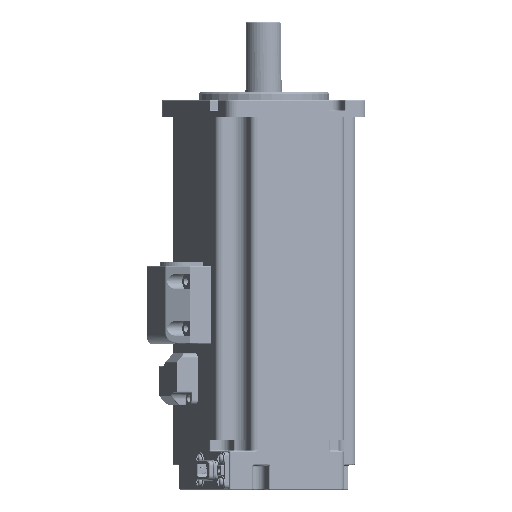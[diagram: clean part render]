
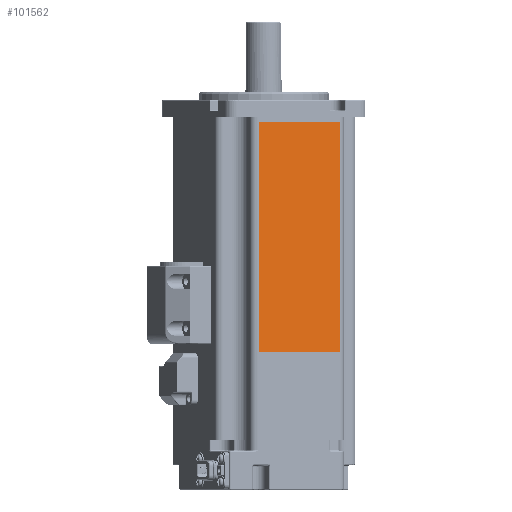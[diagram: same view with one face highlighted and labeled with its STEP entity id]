
A CAD part, left-side view. The second image highlights one B-rep face of the part: STEP entity #101562.
In plain terms, the highlighted planar face has unit normal (-0.89, -0.456, 0) as drawn and (1, 0, 0) by its records, which use the part's own axes.
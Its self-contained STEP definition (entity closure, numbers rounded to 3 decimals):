
#446 = VECTOR ( 'NONE', #66557, 1000. ) ;
#8874 = PLANE ( 'NONE',  #79590 ) ;
#13967 = LINE ( 'NONE', #93670, #446 ) ;
#25705 = CARTESIAN_POINT ( 'NONE',  ( 30., 17.55, 0. ) ) ;
#29896 = EDGE_CURVE ( 'NONE', #77960, #58888, #179159, .T. ) ;
#37857 = VERTEX_POINT ( 'NONE', #108426 ) ;
#48071 = DIRECTION ( 'NONE',  ( 0., 0., 1. ) ) ;
#54053 = CARTESIAN_POINT ( 'NONE',  ( 30., -25.05, 0. ) ) ;
#58888 = VERTEX_POINT ( 'NONE', #25705 ) ;
#66557 = DIRECTION ( 'NONE',  ( 0., 0., -1. ) ) ;
#67774 = EDGE_LOOP ( 'NONE', ( #161841, #146588, #91909, #91692 ) ) ;
#71133 = CARTESIAN_POINT ( 'NONE',  ( 30., -25.05, 88. ) ) ;
#77960 = VERTEX_POINT ( 'NONE', #127293 ) ;
#79590 = AXIS2_PLACEMENT_3D ( 'NONE', #111693, #153965, #182926 ) ;
#81485 = EDGE_CURVE ( 'NONE', #37857, #58888, #13967, .T. ) ;
#84094 = VERTEX_POINT ( 'NONE', #84131 ) ;
#84131 = CARTESIAN_POINT ( 'NONE',  ( 30., -17.55, 88. ) ) ;
#87235 = VECTOR ( 'NONE', #48071, 1000. ) ;
#90794 = VECTOR ( 'NONE', #172043, 1000. ) ;
#91692 = ORIENTED_EDGE ( 'NONE', *, *, #81485, .F. ) ;
#91909 = ORIENTED_EDGE ( 'NONE', *, *, #29896, .T. ) ;
#93670 = CARTESIAN_POINT ( 'NONE',  ( 30., 17.55, 88. ) ) ;
#101562 = ADVANCED_FACE ( 'NONE', ( #130446 ), #8874, .F. ) ;
#102033 = LINE ( 'NONE', #71133, #90794 ) ;
#108426 = CARTESIAN_POINT ( 'NONE',  ( 30., 17.55, 88. ) ) ;
#111693 = CARTESIAN_POINT ( 'NONE',  ( 30., 17.55, 88. ) ) ;
#111979 = LINE ( 'NONE', #134411, #87235 ) ;
#113609 = EDGE_CURVE ( 'NONE', #84094, #37857, #102033, .T. ) ;
#118039 = EDGE_CURVE ( 'NONE', #77960, #84094, #111979, .T. ) ;
#127293 = CARTESIAN_POINT ( 'NONE',  ( 30., -17.55, 0. ) ) ;
#130446 = FACE_OUTER_BOUND ( 'NONE', #67774, .T. ) ;
#134411 = CARTESIAN_POINT ( 'NONE',  ( 30., -17.55, 88. ) ) ;
#145432 = DIRECTION ( 'NONE',  ( 0., 1., 0. ) ) ;
#146588 = ORIENTED_EDGE ( 'NONE', *, *, #118039, .F. ) ;
#153965 = DIRECTION ( 'NONE',  ( -1., 0., 0. ) ) ;
#158926 = VECTOR ( 'NONE', #145432, 1000. ) ;
#161841 = ORIENTED_EDGE ( 'NONE', *, *, #113609, .F. ) ;
#172043 = DIRECTION ( 'NONE',  ( 0., 1., 0. ) ) ;
#179159 = LINE ( 'NONE', #54053, #158926 ) ;
#182926 = DIRECTION ( 'NONE',  ( 0., 0., 1. ) ) ;
